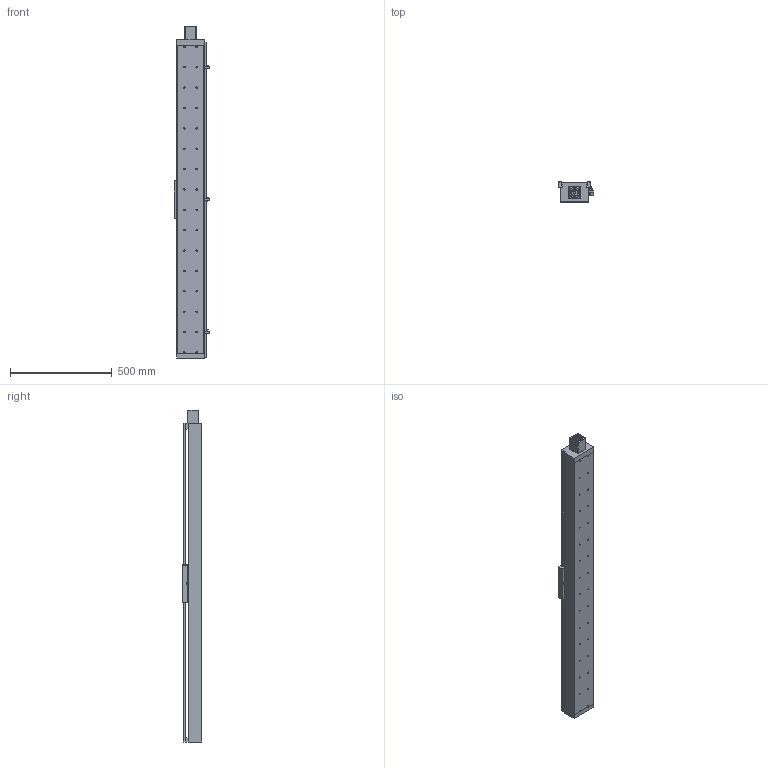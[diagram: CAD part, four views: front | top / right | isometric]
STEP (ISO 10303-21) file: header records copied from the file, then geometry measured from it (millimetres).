
FILE_DESCRIPTION((''),'2;1');
FILE_NAME('E:\libraries\UIA actuator library 2009\standard actuator\UIA136 ball screw 25\UIA136R15NDC-_ _ _-R25_ _, stp file 27Apr16\UIA136R15NDC-1300-R25_ _-M60-P13-C10-S.stp','2016-04-28T17:32:20',('h029'),(''),'Autodesk Inventor 11','Autodesk Inventor 11','');
FILE_SCHEMA(('AUTOMOTIVE_DESIGN { 1 0 10303 214 1 1 1 1 }'));
Length unit declared in the file: millimetre
Products named in the file (10): UIA136R15NDC-1300; UIA136R15NDC-body; motor mount F60; SOH-32C; SOH-32C-3; SOH-32C-1; SOH-32C-2; Carriage; Sensor Switch; sensor rail
Assembly tree (9 placements, depth 3):
  UIA136R15NDC-1300
    UIA136R15NDC-body
    motor mount F60
    SOH-32C
      SOH-32C-3
      SOH-32C-1
      SOH-32C-2
    Carriage
    Sensor Switch
    sensor rail
Bounding box: 174.5 x 98 x 1630 mm (x, y, z)
Volume: 5832824.6 mm3; surface area: 1663529.1 mm2
Topology: 8 solids, 8 shells, 556 faces, 1439 edges, 942 vertices
Faces by surface type: plane 324, bspline 182, cylinder 46, cone 4
Full cylindrical faces by diameter (mm): 2.459 x2, 3.242 x2, 4.5 x2, 7 x4, 7.5 x2, 14 x3, 17 x1, 32 x3, 37 x1, 50.3 x1, 50.5 x1
Entity records: 18180 total; most frequent: CARTESIAN_POINT 5492, ORIENTED_EDGE 2424, DIRECTION 2378, EDGE_CURVE 1212, EDGE_LOOP 880, VERTEX_POINT 878, VECTOR 816, LINE 816
